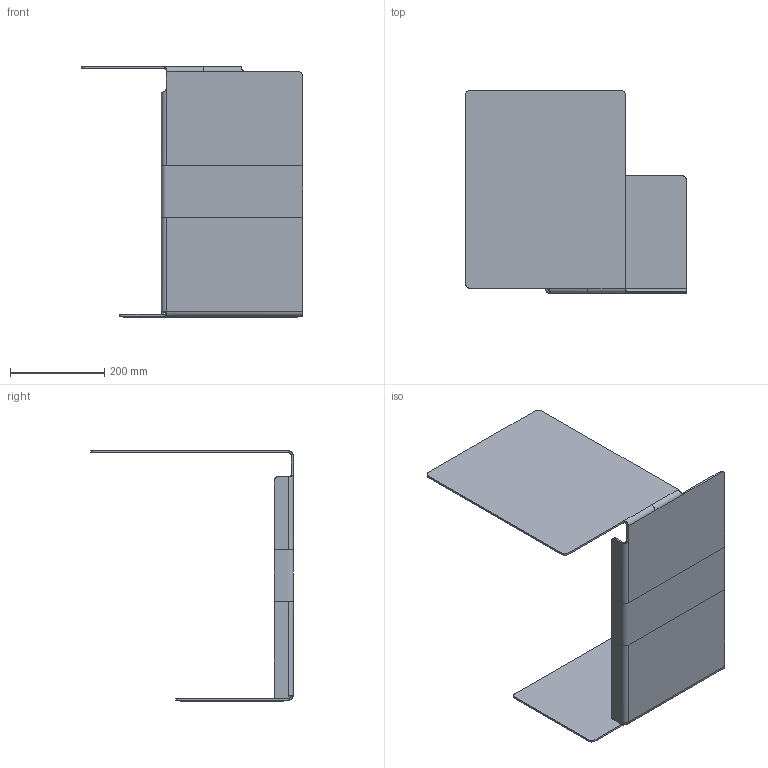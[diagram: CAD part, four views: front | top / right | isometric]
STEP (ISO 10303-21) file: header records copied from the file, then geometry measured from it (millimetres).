
FILE_DESCRIPTION(/* description */ (''),/* implementation_level */ '2;1');
FILE_NAME(/* name */ 'KG_Diana_B_3D_JS_20230718',/* time_stamp */ '2023-07-18T11:02:10+02:00',/* author */ (''),/* organization */ (''),/* preprocessor_version */ 'ST-DEVELOPER v16.5',/* originating_system */ 'Rhino 7.31',/* authorisation */ '');
FILE_SCHEMA (('CONFIG_CONTROL_DESIGN'));
Length unit declared in the file: millimetre
Products named in the file (1): Document
Bounding box: 470 x 430.01 x 532.08 mm (x, y, z)
Volume: 162800 mm3; surface area: 999396.2 mm2
Topology: 1 solids, 2 shells, 73 faces, 192 edges, 108 vertices
Faces by surface type: plane 36, bspline 19, cylinder 18
Entity records: 4249 total; most frequent: CARTESIAN_POINT 2908, ORIENTED_EDGE 356, EDGE_CURVE 192, B_SPLINE_CURVE_WITH_KNOTS 186, VERTEX_POINT 108, ADVANCED_FACE 73, FACE_OUTER_BOUND 73, EDGE_LOOP 73
